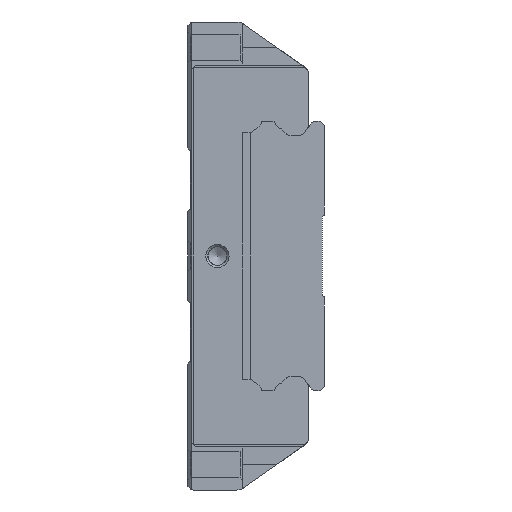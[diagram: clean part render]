
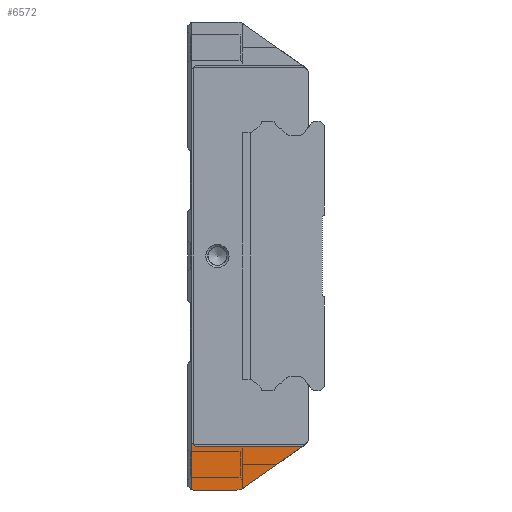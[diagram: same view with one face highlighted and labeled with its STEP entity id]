
A CAD part, left-side view. The second image highlights one B-rep face of the part: STEP entity #6572.
In plain terms, the highlighted planar face has unit normal (-1, 0, 0).
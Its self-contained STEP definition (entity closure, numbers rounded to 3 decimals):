
#188=PLANE('',#7381);
#401=LINE('',#10876,#749);
#402=LINE('',#10878,#750);
#403=LINE('',#10882,#751);
#404=LINE('',#10884,#752);
#405=LINE('',#10886,#753);
#749=VECTOR('',#9014,1000.);
#750=VECTOR('',#9015,1000.);
#751=VECTOR('',#9018,1000.);
#752=VECTOR('',#9019,1000.);
#753=VECTOR('',#9020,1000.);
#1881=ORIENTED_EDGE('',*,*,#3045,.F.);
#1882=ORIENTED_EDGE('',*,*,#2980,.F.);
#1883=ORIENTED_EDGE('',*,*,#3046,.F.);
#1884=ORIENTED_EDGE('',*,*,#3047,.F.);
#1885=ORIENTED_EDGE('',*,*,#3048,.F.);
#1886=ORIENTED_EDGE('',*,*,#3049,.T.);
#1887=ORIENTED_EDGE('',*,*,#3050,.T.);
#2980=EDGE_CURVE('',#3740,#3741,#4330,.T.);
#3045=EDGE_CURVE('',#3741,#3787,#401,.T.);
#3046=EDGE_CURVE('',#3788,#3740,#402,.T.);
#3047=EDGE_CURVE('',#3789,#3788,#4339,.T.);
#3048=EDGE_CURVE('',#3790,#3789,#403,.T.);
#3049=EDGE_CURVE('',#3790,#3791,#404,.T.);
#3050=EDGE_CURVE('',#3791,#3787,#405,.T.);
#3740=VERTEX_POINT('',#10746);
#3741=VERTEX_POINT('',#10748);
#3787=VERTEX_POINT('',#10877);
#3788=VERTEX_POINT('',#10879);
#3789=VERTEX_POINT('',#10881);
#3790=VERTEX_POINT('',#10883);
#3791=VERTEX_POINT('',#10885);
#4330=CIRCLE('',#7346,1.);
#4339=CIRCLE('',#7382,3.);
#5082=EDGE_LOOP('',(#1881,#1882,#1883,#1884,#1885,#1886,#1887));
#5918=FACE_BOUND('',#5082,.T.);
#6572=ADVANCED_FACE('',(#5918),#188,.F.);
#7346=AXIS2_PLACEMENT_3D('',#10747,#8895,#8896);
#7381=AXIS2_PLACEMENT_3D('',#10875,#9012,#9013);
#7382=AXIS2_PLACEMENT_3D('',#10880,#9016,#9017);
#8895=DIRECTION('',(1.,0.,0.));
#8896=DIRECTION('',(0.,0.,-1.));
#9012=DIRECTION('',(1.,0.,0.));
#9013=DIRECTION('',(0.,0.,-1.));
#9014=DIRECTION('',(0.,0.,1.));
#9015=DIRECTION('',(0.,1.,0.));
#9016=DIRECTION('',(1.,0.,0.));
#9017=DIRECTION('',(0.,0.,-1.));
#9018=DIRECTION('',(0.,0.818,-0.575));
#9019=DIRECTION('',(0.,1.,0.));
#9020=DIRECTION('',(0.,0.707,0.707));
#10746=CARTESIAN_POINT('',(-41.5,29.586,-60.));
#10747=CARTESIAN_POINT('',(-41.5,29.586,-59.));
#10748=CARTESIAN_POINT('',(-41.5,30.,-59.91));
#10875=CARTESIAN_POINT('',(-41.5,29.586,59.));
#10876=CARTESIAN_POINT('',(-41.5,30.,59.));
#10877=CARTESIAN_POINT('',(-41.5,30.,-47.8));
#10878=CARTESIAN_POINT('',(-41.5,18.439,-60.));
#10879=CARTESIAN_POINT('',(-41.5,18.439,-60.));
#10880=CARTESIAN_POINT('',(-41.5,18.439,-57.));
#10881=CARTESIAN_POINT('',(-41.5,16.715,-59.455));
#10882=CARTESIAN_POINT('',(-41.5,1.5,-48.773));
#10883=CARTESIAN_POINT('',(-41.5,1.538,-48.8));
#10884=CARTESIAN_POINT('',(-41.5,1.5,-48.8));
#10885=CARTESIAN_POINT('',(-41.5,29.,-48.8));
#10886=CARTESIAN_POINT('',(-41.5,29.,-48.8));
